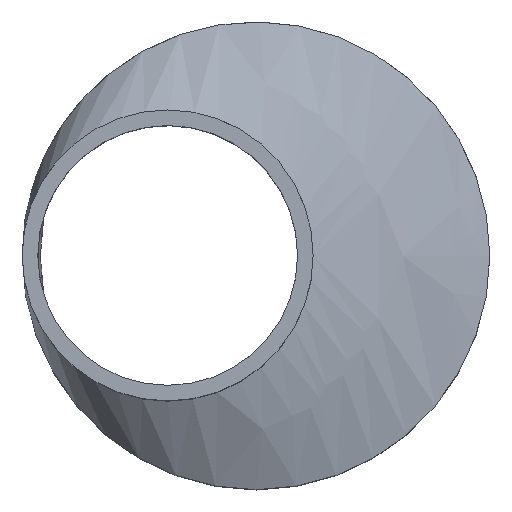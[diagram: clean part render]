
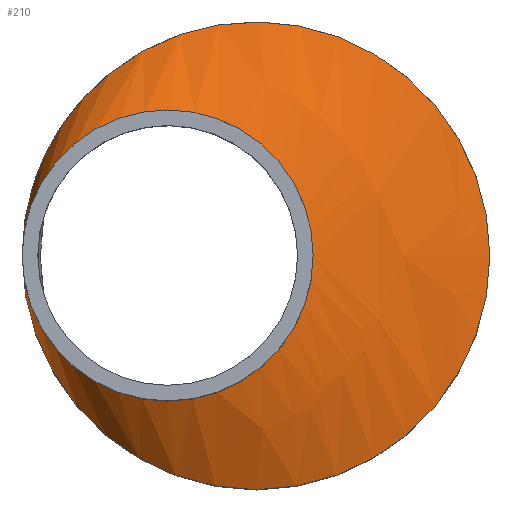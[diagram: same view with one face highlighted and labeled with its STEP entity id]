
A CAD part, top view. The second image highlights one B-rep face of the part: STEP entity #210.
In plain terms, the highlighted free-form (B-spline) face has degree [1, 2] with [2, 9] control points.
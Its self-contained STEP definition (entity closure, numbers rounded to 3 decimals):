
#15=B_SPLINE_CURVE_WITH_KNOTS($,1,(#401,#402),.UNSPECIFIED.,.F.,.F.,(2,
2),(-0.477,0.),.UNSPECIFIED.);
#17=(
BOUNDED_SURFACE()
B_SPLINE_SURFACE(1,2,((#379,#380,#381,#382,#383,#384,#385,#386,#387),(#388,
#389,#390,#391,#392,#393,#394,#395,#396)),.UNSPECIFIED.,.F.,.T.,.F.)
B_SPLINE_SURFACE_WITH_KNOTS((2,2),(3,2,2,2,3),(-2.125,0.793),
(-3.142,-1.571,0.,1.571,3.142),
 .UNSPECIFIED.)
GEOMETRIC_REPRESENTATION_ITEM()
RATIONAL_B_SPLINE_SURFACE(((1.,0.707,1.,0.707,1.,
0.707,1.,0.707,1.),(1.,0.707,1.,0.707,
1.,0.707,1.,0.707,1.)))
REPRESENTATION_ITEM($)
SURFACE()
);
#47=FACE_OUTER_BOUND($,#67,.T.);
#67=EDGE_LOOP($,(#167,#168,#169,#170,#171,#172));
#83=CIRCLE($,#231,45.);
#84=CIRCLE($,#232,45.);
#93=CIRCLE($,#243,28.);
#94=CIRCLE($,#244,28.);
#103=VERTEX_POINT($,#337);
#104=VERTEX_POINT($,#338);
#113=VERTEX_POINT($,#397);
#114=VERTEX_POINT($,#398);
#123=EDGE_CURVE($,#103,#104,#83,.T.);
#124=EDGE_CURVE($,#104,#103,#84,.T.);
#134=EDGE_CURVE($,#113,#114,#93,.T.);
#135=EDGE_CURVE($,#114,#113,#94,.T.);
#136=EDGE_CURVE($,#114,#104,#15,.T.);
#167=ORIENTED_EDGE($,*,*,#134,.F.);
#168=ORIENTED_EDGE($,*,*,#135,.F.);
#169=ORIENTED_EDGE($,*,*,#136,.T.);
#170=ORIENTED_EDGE($,*,*,#123,.F.);
#171=ORIENTED_EDGE($,*,*,#124,.F.);
#172=ORIENTED_EDGE($,*,*,#136,.F.);
#210=ADVANCED_FACE($,(#47),#17,.F.);
#231=AXIS2_PLACEMENT_3D($,#339,#278,#279);
#232=AXIS2_PLACEMENT_3D($,#340,#280,#281);
#243=AXIS2_PLACEMENT_3D($,#399,#302,#303);
#244=AXIS2_PLACEMENT_3D($,#400,#304,#305);
#278=DIRECTION('center_axis',(0.,0.,-1.));
#279=DIRECTION('ref_axis',(-1.,0.,0.));
#280=DIRECTION('center_axis',(0.,0.,-1.));
#281=DIRECTION('ref_axis',(-1.,0.,0.));
#302=DIRECTION('center_axis',(0.,0.,1.));
#303=DIRECTION('ref_axis',(-1.,0.,0.));
#304=DIRECTION('center_axis',(0.,0.,1.));
#305=DIRECTION('ref_axis',(-1.,0.,0.));
#337=CARTESIAN_POINT('',(45.,0.,37.));
#338=CARTESIAN_POINT('',(-28.228,35.045,37.));
#339=CARTESIAN_POINT('Origin',(0.,0.,37.));
#340=CARTESIAN_POINT('Origin',(0.,0.,37.));
#379=CARTESIAN_POINT('Ctrl Pts',(0.,94.028,
1.359));
#380=CARTESIAN_POINT('Ctrl Pts',(-45.,94.028,-34.281));
#381=CARTESIAN_POINT('Ctrl Pts',(-45.,0.,-34.281));
#382=CARTESIAN_POINT('Ctrl Pts',(-45.,-94.028,-34.281));
#383=CARTESIAN_POINT('Ctrl Pts',(0.,-94.028,
1.359));
#384=CARTESIAN_POINT('Ctrl Pts',(45.,-94.028,37.));
#385=CARTESIAN_POINT('Ctrl Pts',(45.,0.,37.));
#386=CARTESIAN_POINT('Ctrl Pts',(45.,94.028,37.));
#387=CARTESIAN_POINT('Ctrl Pts',(0.,94.028,
1.359));
#388=CARTESIAN_POINT('Ctrl Pts',(-38.768,13.022,50.308));
#389=CARTESIAN_POINT('Ctrl Pts',(-45.,13.022,45.372));
#390=CARTESIAN_POINT('Ctrl Pts',(-45.,0.,45.372));
#391=CARTESIAN_POINT('Ctrl Pts',(-45.,-13.022,45.372));
#392=CARTESIAN_POINT('Ctrl Pts',(-38.768,-13.022,50.308));
#393=CARTESIAN_POINT('Ctrl Pts',(-32.536,-13.022,55.244));
#394=CARTESIAN_POINT('Ctrl Pts',(-32.536,0.,55.244));
#395=CARTESIAN_POINT('Ctrl Pts',(-32.536,13.022,55.244));
#396=CARTESIAN_POINT('Ctrl Pts',(-38.768,13.022,50.308));
#397=CARTESIAN_POINT('',(11.,0.,45.));
#398=CARTESIAN_POINT('',(-34.564,21.806,45.));
#399=CARTESIAN_POINT('Origin',(-17.,0.,45.));
#400=CARTESIAN_POINT('Origin',(-17.,0.,45.));
#401=CARTESIAN_POINT('Ctrl Pts',(-34.564,21.806,45.));
#402=CARTESIAN_POINT('Ctrl Pts',(-28.228,35.045,37.));
